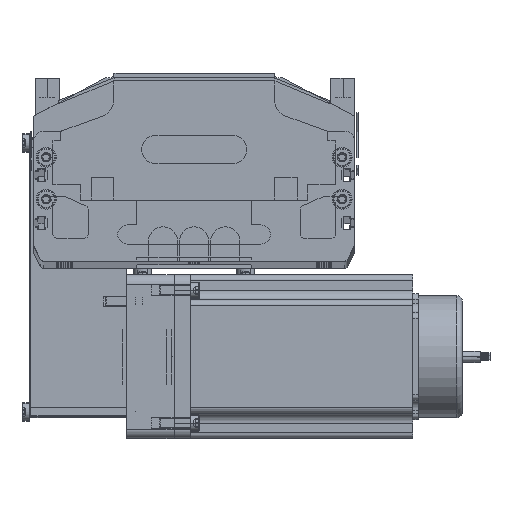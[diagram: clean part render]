
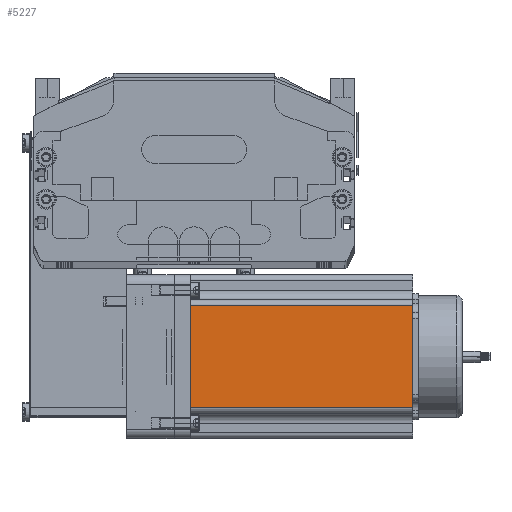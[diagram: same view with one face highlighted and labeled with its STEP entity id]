
A CAD part, top view. The second image highlights one B-rep face of the part: STEP entity #5227.
In plain terms, the highlighted planar face has unit normal (0, 0, 1) as drawn and (0, -1, 0) by its records, which use the part's own axes.
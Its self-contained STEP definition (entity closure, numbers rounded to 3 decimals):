
#5226 = EDGE_CURVE ( 'NONE', #5231, #5280, #68034, .T. ) ;
#5227 = ADVANCED_FACE ( 'NONE', ( #67963 ), #67874, .F. ) ;
#5228 = ORIENTED_EDGE ( 'NONE', *, *, #5230, .T. ) ;
#5229 = ORIENTED_EDGE ( 'NONE', *, *, #5226, .T. ) ;
#5230 = EDGE_CURVE ( 'NONE', #5280, #5361, #67895, .T. ) ;
#5231 = VERTEX_POINT ( 'NONE', #67962 ) ;
#5280 = VERTEX_POINT ( 'NONE', #68127 ) ;
#5281 = EDGE_LOOP ( 'NONE', ( #5229, #5228, #5515, #5490 ) ) ;
#5361 = VERTEX_POINT ( 'NONE', #68243 ) ;
#5485 = EDGE_CURVE ( 'NONE', #5513, #5361, #68423, .T. ) ;
#5490 = ORIENTED_EDGE ( 'NONE', *, *, #5516, .T. ) ;
#5513 = VERTEX_POINT ( 'NONE', #68501 ) ;
#5515 = ORIENTED_EDGE ( 'NONE', *, *, #5485, .F. ) ;
#5516 = EDGE_CURVE ( 'NONE', #5513, #5231, #68487, .T. ) ;
#67874 = PLANE ( 'NONE',  #67956 ) ;
#67894 = CARTESIAN_POINT ( 'NONE',  ( 69.74, 0., 116.5 ) ) ;
#67895 = LINE ( 'NONE', #67894, #68004 ) ;
#67956 = AXIS2_PLACEMENT_3D ( 'NONE', #67970, #68010, #68009 ) ;
#67959 = DIRECTION ( 'NONE',  ( 1., 0., 0. ) ) ;
#67960 = VECTOR ( 'NONE', #67959, 1000. ) ;
#67961 = CARTESIAN_POINT ( 'NONE',  ( 0., 0., 0. ) ) ;
#67962 = CARTESIAN_POINT ( 'NONE',  ( 16.16, 0., 0. ) ) ;
#67963 = FACE_OUTER_BOUND ( 'NONE', #5281, .T. ) ;
#67970 = CARTESIAN_POINT ( 'NONE',  ( 0., 0., 116.5 ) ) ;
#68003 = DIRECTION ( 'NONE',  ( 0., 0., 1. ) ) ;
#68004 = VECTOR ( 'NONE', #68003, 1000. ) ;
#68009 = DIRECTION ( 'NONE',  ( 0., 0., 1. ) ) ;
#68010 = DIRECTION ( 'NONE',  ( 0., 1., 0. ) ) ;
#68034 = LINE ( 'NONE', #67961, #67960 ) ;
#68127 = CARTESIAN_POINT ( 'NONE',  ( 69.74, 0., 0. ) ) ;
#68243 = CARTESIAN_POINT ( 'NONE',  ( 69.74, 0., 116.5 ) ) ;
#68423 = LINE ( 'NONE', #68436, #68560 ) ;
#68436 = CARTESIAN_POINT ( 'NONE',  ( 0., 0., 116.5 ) ) ;
#68484 = DIRECTION ( 'NONE',  ( 0., 0., -1. ) ) ;
#68485 = VECTOR ( 'NONE', #68484, 1000. ) ;
#68486 = CARTESIAN_POINT ( 'NONE',  ( 16.16, 0., 116.5 ) ) ;
#68487 = LINE ( 'NONE', #68486, #68485 ) ;
#68501 = CARTESIAN_POINT ( 'NONE',  ( 16.16, 0., 116.5 ) ) ;
#68559 = DIRECTION ( 'NONE',  ( 1., 0., 0. ) ) ;
#68560 = VECTOR ( 'NONE', #68559, 1000. ) ;
